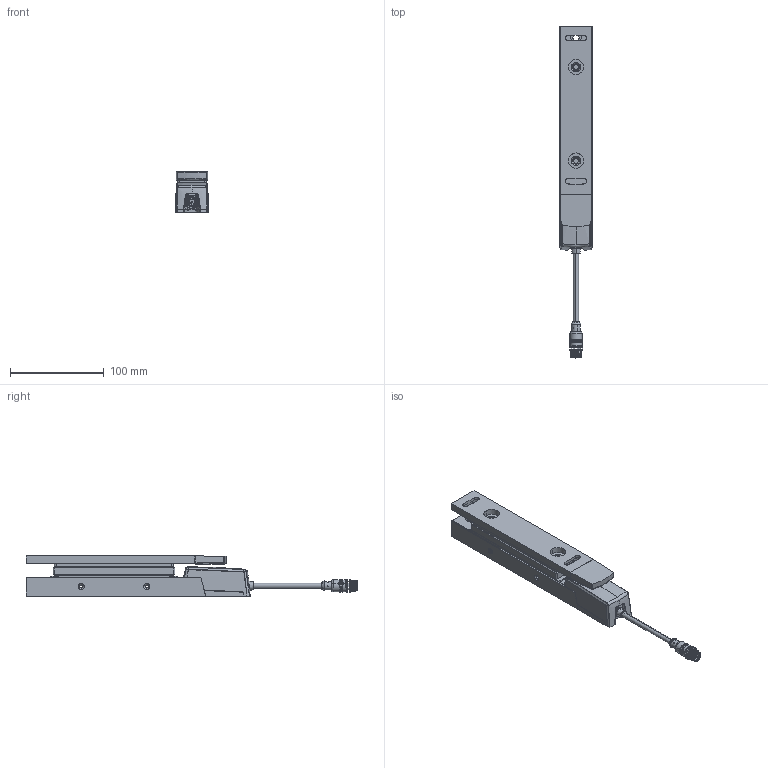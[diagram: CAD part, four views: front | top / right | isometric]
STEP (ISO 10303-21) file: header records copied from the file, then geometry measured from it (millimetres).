
FILE_DESCRIPTION (( 'STEP AP203' ), '1' );
FILE_NAME ('17-001-50V2 Holdx R1L.STEP', '2020-02-04T17:27:02', ( '' ), ( '' ), 'SwSTEP 2.0', 'SolidWorks 2011', '' );
FILE_SCHEMA (( 'CONFIG_CONTROL_DESIGN' ));
Length unit declared in the file: millimetre
Products named in the file (1): 17-001-50V2 Holdx R1L
Bounding box: 34.9 x 354.6 x 42.9 mm (x, y, z)
Surface area: 79982.4 mm2 (no closed solid volume)
Topology: 0 solids, 40 shells, 513 faces, 2393 edges, 1827 vertices
Faces by surface type: cylinder 155, plane 141, bspline 134, cone 41, torus 30, sphere 12
Entity records: 33469 total; most frequent: CARTESIAN_POINT 16458, ORIENTED_EDGE 3411, DIRECTION 2886, EDGE_CURVE 2369, VERTEX_POINT 1815, LINE 1114, VECTOR 1114, AXIS2_PLACEMENT_3D 886
